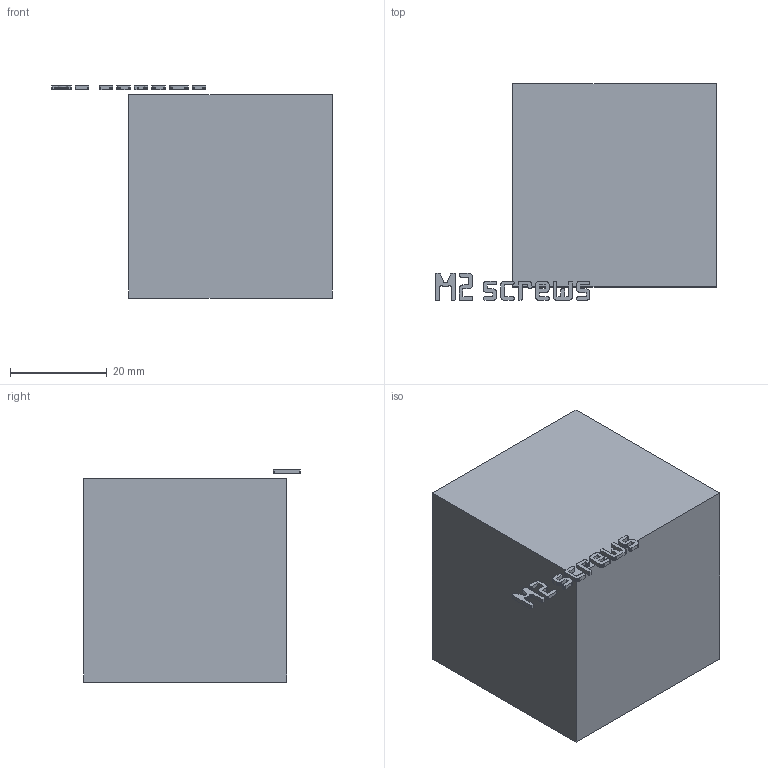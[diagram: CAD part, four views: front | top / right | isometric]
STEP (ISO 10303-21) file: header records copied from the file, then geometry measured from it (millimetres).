
FILE_DESCRIPTION(('Open CASCADE Model'),'2;1');
FILE_NAME('Open CASCADE Shape Model','2026-11-03T16:03:54',('Author'),( 'Open CASCADE'),'Open CASCADE STEP processor 8.0','build123d', 'Unknown');
FILE_SCHEMA(('AUTOMOTIVE_DESIGN { 1 0 10303 214 1 1 1 1 }'));
Products named in the file (1): COMPOUND
Bounding box: 57.92 x 44.8 x 43.8 mm (x, y, z)
Volume: 19267.6 mm3; surface area: 19508.2 mm2
Topology: 9 solids, 10 shells, 844 faces, 2472 edges, 1648 vertices
Faces by surface type: plane 844
Entity records: 59520 total; most frequent: CARTESIAN_POINT 9917, DIRECTION 9098, LINE 7408, VECTOR 7408, ORIENTED_EDGE 4944, PCURVE 4944, DEFINITIONAL_REPRESENTATION 4944, EDGE_CURVE 2472
